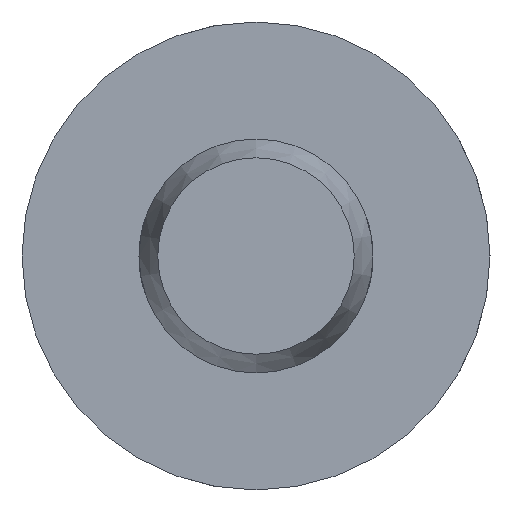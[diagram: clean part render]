
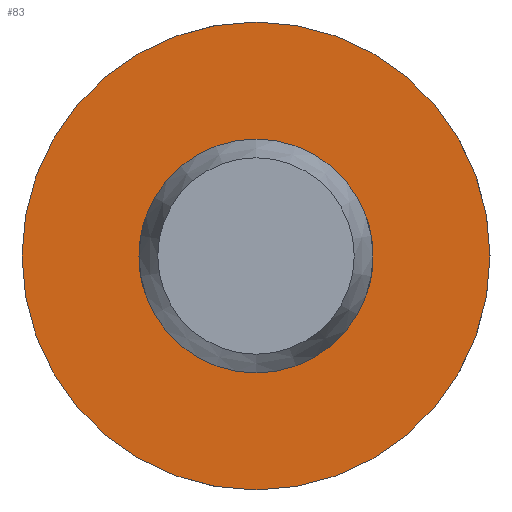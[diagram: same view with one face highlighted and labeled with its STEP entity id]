
A CAD part, left-side view. The second image highlights one B-rep face of the part: STEP entity #83.
In plain terms, the highlighted planar face has unit normal (-1, 0, 0).
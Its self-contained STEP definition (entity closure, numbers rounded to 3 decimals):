
#83 = ADVANCED_FACE( '', ( #129, #130 ), #131, .F. );
#129 = FACE_OUTER_BOUND( '', #208, .T. );
#130 = FACE_BOUND( '', #209, .T. );
#131 = PLANE( '', #210 );
#208 = EDGE_LOOP( '', ( #325 ) );
#209 = EDGE_LOOP( '', ( #326 ) );
#210 = AXIS2_PLACEMENT_3D( '', #327, #328, #329 );
#325 = ORIENTED_EDGE( '', *, *, #493, .F. );
#326 = ORIENTED_EDGE( '', *, *, #483, .T. );
#327 = CARTESIAN_POINT( '', ( 31., 2.5, 0. ) );
#328 = DIRECTION( '', ( 1., 0., 0. ) );
#329 = DIRECTION( '', ( 0., 0., -1. ) );
#483 = EDGE_CURVE( '', #554, #554, #555, .T. );
#493 = EDGE_CURVE( '', #572, #572, #573, .T. );
#554 = VERTEX_POINT( '', #741 );
#555 = CIRCLE( '', #742, 2.5 );
#572 = VERTEX_POINT( '', #842 );
#573 = CIRCLE( '', #843, 5. );
#741 = CARTESIAN_POINT( '', ( 31., 0., -2.5 ) );
#742 = AXIS2_PLACEMENT_3D( '', #906, #907, #908 );
#842 = CARTESIAN_POINT( '', ( 31., 0., -5. ) );
#843 = AXIS2_PLACEMENT_3D( '', #927, #928, #929 );
#906 = CARTESIAN_POINT( '', ( 31., 0., 0. ) );
#907 = DIRECTION( '', ( 1., 0., 0. ) );
#908 = DIRECTION( '', ( 0., 0., -1. ) );
#927 = CARTESIAN_POINT( '', ( 31., 0., 0. ) );
#928 = DIRECTION( '', ( 1., 0., 0. ) );
#929 = DIRECTION( '', ( 0., 0., -1. ) );
